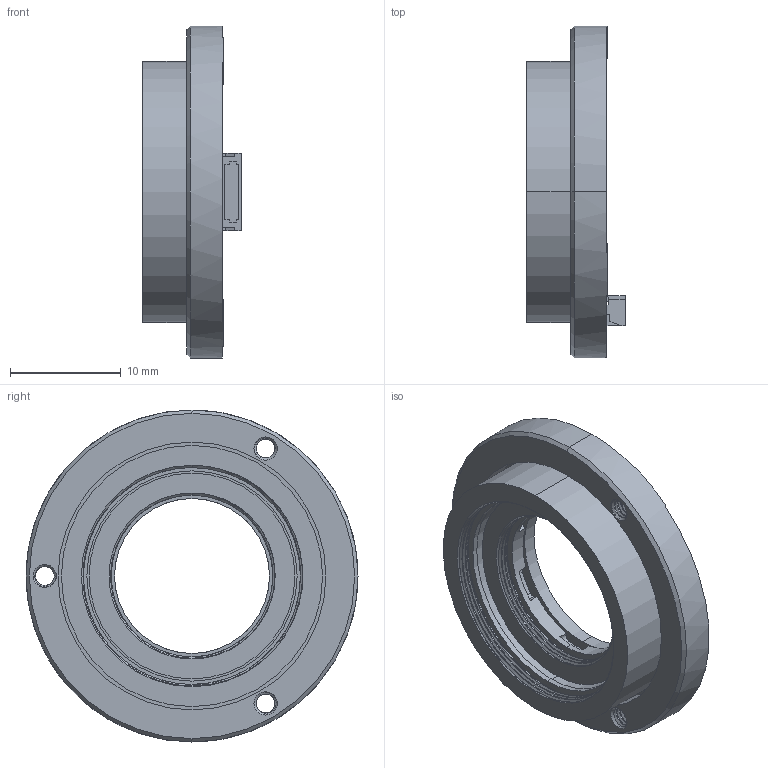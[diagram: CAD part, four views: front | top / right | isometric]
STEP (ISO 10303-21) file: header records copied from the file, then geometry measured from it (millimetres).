
FILE_DESCRIPTION (( 'STEP AP214' ), '1' );
FILE_NAME ('DPT-15-20-30 ¸üÐÂ.STEP', '2024-07-06T03:57:59', ( 'C' ), ( 'Microsoft' ), 'SwSTEP 2.0', 'SolidWorks 2016', '' );
FILE_SCHEMA (( 'AUTOMOTIVE_DESIGN' ));
Length unit declared in the file: millimetre
Products named in the file (1): DPT-15-20-30 載陔
Bounding box: 8.91 x 30 x 30 mm (x, y, z)
Volume: 2194.3 mm3; surface area: 3893.9 mm2
Topology: 8 solids, 8 shells, 430 faces, 1119 edges, 736 vertices
Faces by surface type: plane 196, cylinder 150, bspline 60, cone 24
Entity records: 20739 total; most frequent: CARTESIAN_POINT 8843, ORIENTED_EDGE 2238, DIRECTION 1895, EDGE_CURVE 1119, VERTEX_POINT 736, AXIS2_PLACEMENT_3D 635, VECTOR 625, LINE 625
